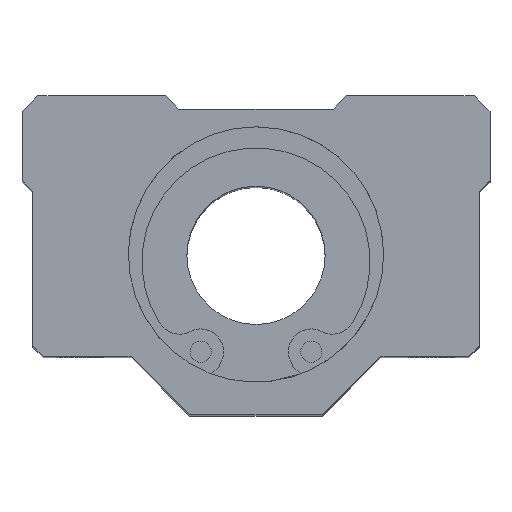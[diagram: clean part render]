
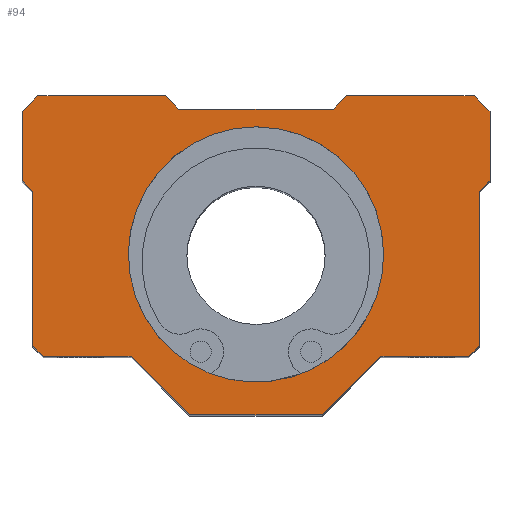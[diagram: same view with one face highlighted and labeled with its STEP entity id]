
A CAD part, top view. The second image highlights one B-rep face of the part: STEP entity #94.
In plain terms, the highlighted planar face has unit normal (0, 0, 1).
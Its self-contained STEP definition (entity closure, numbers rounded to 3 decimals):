
#94=ADVANCED_FACE('',(#192,#193),#194,.T.);
#192=FACE_OUTER_BOUND('',#349,.T.);
#193=FACE_BOUND('',#350,.T.);
#194=PLANE('',#351);
#349=EDGE_LOOP('',(#598,#599,#600,#601,#602,#603,#604,#605,#606,#607,#608,#609,#610,#611,#612,#613,#614,#615,#616,#617));
#350=EDGE_LOOP('',(#618));
#351=AXIS2_PLACEMENT_3D('',#619,#620,#621);
#598=ORIENTED_EDGE('',*,*,#1000,.T.);
#599=ORIENTED_EDGE('',*,*,#996,.T.);
#600=ORIENTED_EDGE('',*,*,#1001,.T.);
#601=ORIENTED_EDGE('',*,*,#1002,.T.);
#602=ORIENTED_EDGE('',*,*,#1003,.T.);
#603=ORIENTED_EDGE('',*,*,#1004,.T.);
#604=ORIENTED_EDGE('',*,*,#1005,.T.);
#605=ORIENTED_EDGE('',*,*,#1006,.T.);
#606=ORIENTED_EDGE('',*,*,#1007,.T.);
#607=ORIENTED_EDGE('',*,*,#1008,.T.);
#608=ORIENTED_EDGE('',*,*,#1009,.T.);
#609=ORIENTED_EDGE('',*,*,#1010,.T.);
#610=ORIENTED_EDGE('',*,*,#1011,.T.);
#611=ORIENTED_EDGE('',*,*,#1012,.T.);
#612=ORIENTED_EDGE('',*,*,#1013,.T.);
#613=ORIENTED_EDGE('',*,*,#1014,.T.);
#614=ORIENTED_EDGE('',*,*,#1015,.T.);
#615=ORIENTED_EDGE('',*,*,#1016,.T.);
#616=ORIENTED_EDGE('',*,*,#1017,.T.);
#617=ORIENTED_EDGE('',*,*,#1018,.T.);
#618=ORIENTED_EDGE('',*,*,#995,.T.);
#619=CARTESIAN_POINT('',(-14.5,21.0,37.5));
#620=DIRECTION('',(0.0,-0.0,1.0));
#621=DIRECTION('',(0.0,1.0,0.0));
#995=EDGE_CURVE('',#1196,#1196,#1197,.F.);
#996=EDGE_CURVE('',#1198,#1199,#1200,.F.);
#1000=EDGE_CURVE('',#1206,#1198,#1207,.T.);
#1001=EDGE_CURVE('',#1199,#1208,#1209,.T.);
#1002=EDGE_CURVE('',#1208,#1210,#1211,.T.);
#1003=EDGE_CURVE('',#1210,#1212,#1213,.T.);
#1004=EDGE_CURVE('',#1212,#1214,#1215,.T.);
#1005=EDGE_CURVE('',#1214,#1216,#1217,.T.);
#1006=EDGE_CURVE('',#1216,#1218,#1219,.T.);
#1007=EDGE_CURVE('',#1218,#1220,#1221,.T.);
#1008=EDGE_CURVE('',#1220,#1222,#1223,.T.);
#1009=EDGE_CURVE('',#1222,#1224,#1225,.T.);
#1010=EDGE_CURVE('',#1224,#1226,#1227,.T.);
#1011=EDGE_CURVE('',#1226,#1228,#1229,.T.);
#1012=EDGE_CURVE('',#1228,#1230,#1231,.T.);
#1013=EDGE_CURVE('',#1230,#1232,#1233,.T.);
#1014=EDGE_CURVE('',#1232,#1234,#1235,.T.);
#1015=EDGE_CURVE('',#1234,#1236,#1237,.T.);
#1016=EDGE_CURVE('',#1236,#1238,#1239,.T.);
#1017=EDGE_CURVE('',#1238,#1240,#1241,.T.);
#1018=EDGE_CURVE('',#1240,#1206,#1242,.T.);
#1196=VERTEX_POINT('',#1460);
#1197=CIRCLE('',#1461,12.0);
#1198=VERTEX_POINT('',#1462);
#1199=VERTEX_POINT('',#1463);
#1200=LINE('',#1464,#1465);
#1206=VERTEX_POINT('',#1474);
#1207=LINE('',#1475,#1476);
#1208=VERTEX_POINT('',#1477);
#1209=LINE('',#1478,#1479);
#1210=VERTEX_POINT('',#1480);
#1211=LINE('',#1481,#1482);
#1212=VERTEX_POINT('',#1483);
#1213=LINE('',#1484,#1485);
#1214=VERTEX_POINT('',#1486);
#1215=LINE('',#1487,#1488);
#1216=VERTEX_POINT('',#1489);
#1217=LINE('',#1490,#1491);
#1218=VERTEX_POINT('',#1492);
#1219=LINE('',#1493,#1494);
#1220=VERTEX_POINT('',#1495);
#1221=LINE('',#1496,#1497);
#1222=VERTEX_POINT('',#1498);
#1223=LINE('',#1499,#1500);
#1224=VERTEX_POINT('',#1501);
#1225=LINE('',#1502,#1503);
#1226=VERTEX_POINT('',#1504);
#1227=LINE('',#1505,#1506);
#1228=VERTEX_POINT('',#1507);
#1229=LINE('',#1508,#1509);
#1230=VERTEX_POINT('',#1510);
#1231=LINE('',#1511,#1512);
#1232=VERTEX_POINT('',#1513);
#1233=LINE('',#1514,#1515);
#1234=VERTEX_POINT('',#1516);
#1235=LINE('',#1517,#1518);
#1236=VERTEX_POINT('',#1519);
#1237=LINE('',#1520,#1521);
#1238=VERTEX_POINT('',#1522);
#1239=LINE('',#1523,#1524);
#1240=VERTEX_POINT('',#1525);
#1241=LINE('',#1526,#1527);
#1242=LINE('',#1528,#1529);
#1460=CARTESIAN_POINT('',(12.0,0.081,37.5));
#1461=AXIS2_PLACEMENT_3D('',#1821,#1822,#1823);
#1462=CARTESIAN_POINT('',(20.0,-9.5,37.5));
#1463=CARTESIAN_POINT('',(21.0,-8.5,37.5));
#1464=CARTESIAN_POINT('',(18.0,-11.5,37.5));
#1465=VECTOR('',#1824,1.0);
#1474=CARTESIAN_POINT('',(11.75,-9.5,37.5));
#1475=CARTESIAN_POINT('',(11.75,-9.5,37.5));
#1476=VECTOR('',#1828,1.0);
#1477=CARTESIAN_POINT('',(21.0,6.0,37.5));
#1478=CARTESIAN_POINT('',(21.0,-9.5,37.5));
#1479=VECTOR('',#1829,1.0);
#1480=CARTESIAN_POINT('',(22.0,7.0,37.5));
#1481=CARTESIAN_POINT('',(21.0,6.0,37.5));
#1482=VECTOR('',#1830,1.0);
#1483=CARTESIAN_POINT('',(22.0,13.5,37.5));
#1484=CARTESIAN_POINT('',(22.0,7.0,37.5));
#1485=VECTOR('',#1831,1.0);
#1486=CARTESIAN_POINT('',(20.5,15.0,37.5));
#1487=CARTESIAN_POINT('',(22.0,13.5,37.5));
#1488=VECTOR('',#1832,1.0);
#1489=CARTESIAN_POINT('',(8.5,15.0,37.5));
#1490=CARTESIAN_POINT('',(20.5,15.0,37.5));
#1491=VECTOR('',#1833,1.0);
#1492=CARTESIAN_POINT('',(7.25,13.75,37.5));
#1493=CARTESIAN_POINT('',(8.5,15.0,37.5));
#1494=VECTOR('',#1834,1.0);
#1495=CARTESIAN_POINT('',(-7.25,13.75,37.5));
#1496=CARTESIAN_POINT('',(7.25,13.75,37.5));
#1497=VECTOR('',#1835,1.0);
#1498=CARTESIAN_POINT('',(-8.5,15.0,37.5));
#1499=CARTESIAN_POINT('',(-7.25,13.75,37.5));
#1500=VECTOR('',#1836,1.0);
#1501=CARTESIAN_POINT('',(-20.5,15.0,37.5));
#1502=CARTESIAN_POINT('',(-8.5,15.0,37.5));
#1503=VECTOR('',#1837,1.0);
#1504=CARTESIAN_POINT('',(-22.0,13.5,37.5));
#1505=CARTESIAN_POINT('',(-20.5,15.0,37.5));
#1506=VECTOR('',#1838,1.0);
#1507=CARTESIAN_POINT('',(-22.0,7.0,37.5));
#1508=CARTESIAN_POINT('',(-22.0,13.5,37.5));
#1509=VECTOR('',#1839,1.0);
#1510=CARTESIAN_POINT('',(-21.0,6.0,37.5));
#1511=CARTESIAN_POINT('',(-22.0,7.0,37.5));
#1512=VECTOR('',#1840,1.0);
#1513=CARTESIAN_POINT('',(-21.0,-8.5,37.5));
#1514=CARTESIAN_POINT('',(-21.0,6.0,37.5));
#1515=VECTOR('',#1841,1.0);
#1516=CARTESIAN_POINT('',(-20.0,-9.5,37.5));
#1517=CARTESIAN_POINT('',(-21.0,-8.5,37.5));
#1518=VECTOR('',#1842,1.0);
#1519=CARTESIAN_POINT('',(-11.75,-9.5,37.5));
#1520=CARTESIAN_POINT('',(-20.0,-9.5,37.5));
#1521=VECTOR('',#1843,1.0);
#1522=CARTESIAN_POINT('',(-6.25,-15.0,37.5));
#1523=CARTESIAN_POINT('',(-11.75,-9.5,37.5));
#1524=VECTOR('',#1844,1.0);
#1525=CARTESIAN_POINT('',(6.25,-15.0,37.5));
#1526=CARTESIAN_POINT('',(-6.25,-15.0,37.5));
#1527=VECTOR('',#1845,1.0);
#1528=CARTESIAN_POINT('',(6.25,-15.0,37.5));
#1529=VECTOR('',#1846,1.0);
#1821=CARTESIAN_POINT('',(0.,0.081,37.5));
#1822=DIRECTION('',(0.0,0.0,1.0));
#1823=DIRECTION('',(1.0,0.0,0.0));
#1824=DIRECTION('',(-0.707,-0.707,0.0));
#1828=DIRECTION('',(1.0,0.0,0.0));
#1829=DIRECTION('',(0.0,1.0,0.0));
#1830=DIRECTION('',(0.707,0.707,0.0));
#1831=DIRECTION('',(0.0,1.0,0.0));
#1832=DIRECTION('',(-0.707,0.707,0.0));
#1833=DIRECTION('',(-1.0,0.0,0.0));
#1834=DIRECTION('',(-0.707,-0.707,0.0));
#1835=DIRECTION('',(-1.0,0.0,0.0));
#1836=DIRECTION('',(-0.707,0.707,0.0));
#1837=DIRECTION('',(-1.0,0.0,0.0));
#1838=DIRECTION('',(-0.707,-0.707,0.0));
#1839=DIRECTION('',(0.0,-1.0,0.0));
#1840=DIRECTION('',(0.707,-0.707,0.0));
#1841=DIRECTION('',(0.0,-1.0,0.0));
#1842=DIRECTION('',(0.707,-0.707,0.0));
#1843=DIRECTION('',(1.0,0.0,0.0));
#1844=DIRECTION('',(0.707,-0.707,0.0));
#1845=DIRECTION('',(1.0,0.0,0.0));
#1846=DIRECTION('',(0.707,0.707,0.0));
